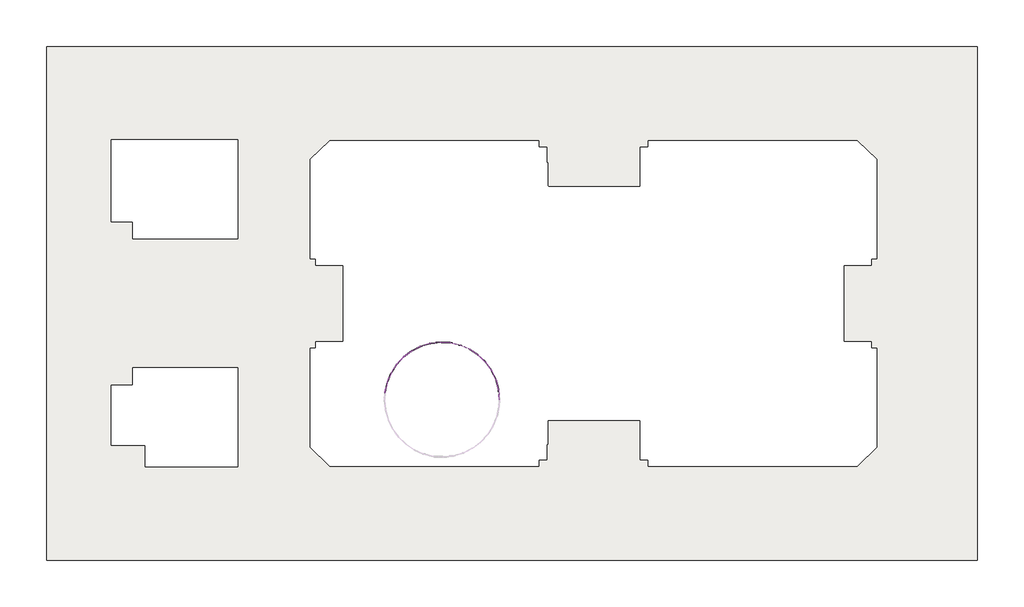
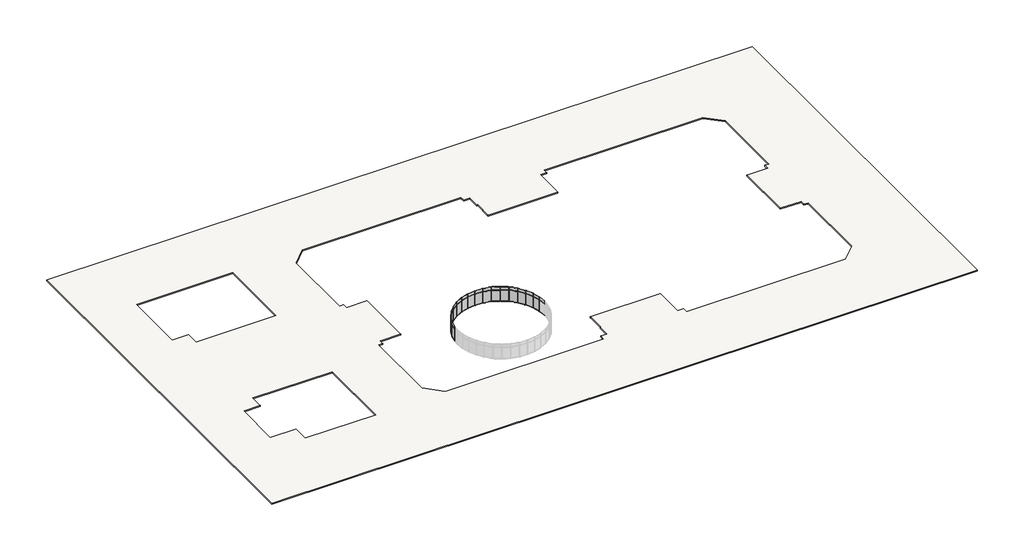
# One storey, part 2 of 2: 68 members, 33 plates, 1 slab.
"""IFC4 building model written with IfcOpenShell, lengths in millimetres."""

from ifc_helpers import new_model, si_unit, point, frame, frame_2d, origin, place, context, project, spatial, polyline, circle_curve, trimmed, segment, composite_curve, outline, extrude, transform, mapped, element, save
from components import member_37831322, member_0f460398, member_8bce7277, member_e3690c8c, plate_f02ba564, plate_84913797, plate_79c12487

model = new_model("IFC4")

# Units and contexts
model_context = context("Model", 3, world=origin())
ifc_project = project(units=[si_unit("LENGTHUNIT", "METRE", prefix="MILLI")], contexts=[model_context])

# Site, building, storey
site = spatial("IfcSite", under=ifc_project)
building = spatial("IfcBuilding", under=site)
storey = spatial("IfcBuildingStorey", under=building, Name="樓層 2", Elevation=4500.0)

# Members
placement = place(None, origin())
member_shape = member_37831322(model_context)
element("IfcMember", 1, ObjectType="圓形豎框 : 25mm 半徑", at=placement, inside=storey, context=model_context, shape_type="MappedRepresentation", body=[
    mapped(member_shape, transform((-1710.0018523, -15272.7850723, 5600.0), x_axis=(-0.17664179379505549, 0.984275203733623, 0.0), y_axis=(0.984275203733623, 0.17664179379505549, 0.0), z_axis=(0.0, 0.0, -1.0))),
])
element("IfcMember", 2, ObjectType="圓形豎框 : 25mm 半徑", at=placement, inside=storey, context=model_context, shape_type="MappedRepresentation", body=[
    mapped(member_shape, transform((-2183.8011895, -13536.2614796, 5600.0), x_axis=(-0.3477282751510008, 0.9375953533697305, 0.0), y_axis=(0.9375953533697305, 0.3477282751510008, 0.0), z_axis=(0.0, 0.0, -1.0))),
])
element("IfcMember", 3, ObjectType="圓形豎框 : 25mm 半徑", at=placement, inside=storey, context=model_context, shape_type="MappedRepresentation", body=[
    mapped(member_shape, transform((-2956.892771, -11910.7371314, 5600.0), x_axis=(-0.5078788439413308, 0.8614285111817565, 0.0), y_axis=(0.8614285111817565, 0.5078788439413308, 0.0), z_axis=(0.0, 0.0, -1.0))),
])
element("IfcMember", 4, ObjectType="圓形豎框 : 25mm 半徑", at=placement, inside=storey, context=model_context, shape_type="MappedRepresentation", body=[
    mapped(member_shape, transform((-4004.9631816, -10447.3341061, 5600.0), x_axis=(-0.6520568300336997, 0.7581700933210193, 0.0), y_axis=(0.7581700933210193, 0.6520568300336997, 0.0), z_axis=(0.0, 0.0, -1.0))),
])
element("IfcMember", 5, ObjectType="圓形豎框 : 25mm 半徑", at=placement, inside=storey, context=model_context, shape_type="MappedRepresentation", body=[
    mapped(member_shape, transform((-5295.0510339, -9192.0758326, 5600.0), x_axis=(-0.7757278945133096, 0.6310675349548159, 0.0), y_axis=(0.6310675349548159, 0.7757278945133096, 0.0), z_axis=(0.0, 0.0, -1.0))),
])
element("IfcMember", 6, ObjectType="圓形豎框 : 25mm 半徑", at=placement, inside=storey, context=model_context, shape_type="MappedRepresentation", body=[
    mapped(member_shape, transform((-6786.5835908, -8184.4396721, 5600.0), x_axis=(-0.8750026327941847, 0.48411815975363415, 0.0), y_axis=(0.48411815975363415, 0.8750026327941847, 0.0), z_axis=(0.0, 0.0, -1.0))),
])
element("IfcMember", 7, ObjectType="圓形豎框 : 25mm 半徑", at=placement, inside=storey, context=model_context, shape_type="MappedRepresentation", body=[
    mapped(member_shape, transform((-8432.6527609, -7456.1153713, 5600.0), x_axis=(-0.9467588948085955, 0.3219434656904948, 0.0), y_axis=(0.3219434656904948, 0.9467588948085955, 0.0), z_axis=(0.0, 0.0, -1.0))),
])
element("IfcMember", 8, ObjectType="圓形豎框 : 25mm 半徑", at=placement, inside=storey, context=model_context, shape_type="MappedRepresentation", body=[
    mapped(member_shape, transform((-10181.4903396, -7030.0084326, 5600.0), x_axis=(-0.9887399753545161, 0.14964378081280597, 0.0), y_axis=(0.14964378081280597, 0.9887399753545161, 0.0), z_axis=(0.0, 0.0, -1.0))),
])
element("IfcMember", 9, ObjectType="圓形豎框 : 25mm 半徑", at=placement, inside=storey, context=model_context, shape_type="MappedRepresentation", body=[
    mapped(member_shape, transform((-11978.0960977, -6919.5197457, 5600.0), x_axis=(-0.9996255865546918, -0.02736213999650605, 0.0), y_axis=(-0.02736213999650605, 0.9996255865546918, 0.0), z_axis=(0.0, 0.0, -1.0))),
])
element("IfcMember", 10, ObjectType="圓形豎框 : 25mm 半徑", at=placement, inside=storey, context=model_context, shape_type="MappedRepresentation", body=[
    mapped(member_shape, transform((-13765.9675162, -7128.1241348, 5600.0), x_axis=(-0.9790733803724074, -0.20350753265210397, 0.0), y_axis=(-0.20350753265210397, 0.9790733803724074, 0.0), z_axis=(0.0, 0.0, -1.0))),
])
element("IfcMember", 11, ObjectType="圓形豎框 : 25mm 半徑", at=placement, inside=storey, context=model_context, shape_type="MappedRepresentation", body=[
    mapped(member_shape, transform((-15488.8767673, -7649.2610767, 5600.0), x_axis=(-0.9277297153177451, -0.373252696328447, 0.0), y_axis=(-0.373252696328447, 0.9277297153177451, 0.0), z_axis=(0.0, 0.0, -1.0))),
])
element("IfcMember", 12, ObjectType="圓形豎框 : 25mm 半徑", at=placement, inside=storey, context=model_context, shape_type="MappedRepresentation", body=[
    mapped(member_shape, transform((-17092.6390573, -8466.5410271, 5600.0), x_axis=(-0.8472093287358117, -0.5312592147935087, 0.0), y_axis=(-0.5312592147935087, 0.8472093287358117, 0.0), z_axis=(0.0, 0.0, -1.0))),
])
element("IfcMember", 13, ObjectType="圓形豎框 : 25mm 半徑", at=placement, inside=storey, context=model_context, shape_type="MappedRepresentation", body=[
    mapped(member_shape, transform((-18526.8167155, -9554.2608645, 5600.0), x_axis=(-0.7400445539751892, -0.6725578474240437, 0.0), y_axis=(-0.6725578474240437, 0.7400445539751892, 0.0), z_axis=(0.0, 0.0, -1.0))),
])
element("IfcMember", 14, ObjectType="圓形豎框 : 25mm 半徑", at=placement, inside=storey, context=model_context, shape_type="MappedRepresentation", body=[
    mapped(member_shape, transform((-19746.305439, -10878.2122432, 5600.0), x_axis=(-0.6096056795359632, -0.7927048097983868, 0.0), y_axis=(-0.7927048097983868, 0.6096056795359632, 0.0), z_axis=(0.0, 0.0, -1.0))),
])
element("IfcMember", 15, ObjectType="圓形豎框 : 25mm 半徑", at=placement, inside=storey, context=model_context, shape_type="MappedRepresentation", body=[
    mapped(member_shape, transform((-20712.7528044, -12396.7574319, 5600.0), x_axis=(-0.4599949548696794, -0.8879215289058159, 0.0), y_axis=(-0.8879215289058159, 0.4599949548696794, 0.0), z_axis=(0.0, 0.0, -1.0))),
])
element("IfcMember", 16, ObjectType="圓形豎框 : 25mm 半徑", at=placement, inside=storey, context=model_context, shape_type="MappedRepresentation", body=[
    mapped(member_shape, transform((-21395.7644357, -14062.1388031, 5600.0), x_axis=(-0.29591757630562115, -0.9552134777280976, 0.0), y_axis=(-0.9552134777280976, 0.29591757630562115, 0.0), z_axis=(0.0, 0.0, -1.0))),
])
element("IfcMember", 17, ObjectType="圓形豎框 : 25mm 半徑", at=placement, inside=storey, context=model_context, shape_type="MappedRepresentation", body=[
    mapped(member_shape, transform((-21773.8598955, -15821.9807912, 5600.0), x_axis=(-0.12253371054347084, -0.992464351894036, 0.0), y_axis=(-0.992464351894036, 0.12253371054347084, 0.0), z_axis=(0.0, 0.0, -1.0))),
])
member_2_shape = member_0f460398(model_context)
element("IfcMember", 18, ObjectType="圓形豎框 : 25mm 半徑", at=placement, inside=storey, context=model_context, shape_type="MappedRepresentation", body=[
    mapped(member_2_shape, transform((-2177.2206431, -13560.3798628, 5600.0), x_axis=(0.0, 0.0, 1.0), y_axis=(0.9647353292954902, 0.2632218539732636, 0.0), z_axis=(-0.2632218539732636, 0.9647353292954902, 0.0))),
])
element("IfcMember", 19, ObjectType="圓形豎框 : 25mm 半徑", at=placement, inside=storey, context=model_context, shape_type="MappedRepresentation", body=[
    mapped(member_2_shape, transform((-2946.1553879, -11933.3138584, 5600.0), x_axis=(0.0, 0.0, 1.0), y_axis=(0.9030690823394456, 0.42949532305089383, 0.0), z_axis=(-0.42949532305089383, 0.9030690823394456, 0.0))),
])
element("IfcMember", 20, ObjectType="圓形豎框 : 25mm 半徑", at=placement, inside=storey, context=model_context, shape_type="MappedRepresentation", body=[
    mapped(member_2_shape, transform((-3990.4066481, -10467.6591481, 5600.0), x_axis=(0.0, 0.0, 1.0), y_axis=(0.8130016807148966, 0.5822613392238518, 0.0), z_axis=(-0.5822613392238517, 0.8130016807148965, 0.0))),
])
element("IfcMember", 21, ObjectType="圓形豎框 : 25mm 半徑", at=placement, inside=storey, context=model_context, shape_type="MappedRepresentation", body=[
    mapped(member_2_shape, transform((-5277.1331471, -9209.5099753, 5600.0), x_axis=(0.0, 0.0, 1.0), y_axis=(0.697365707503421, 0.7167154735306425, 0.0), z_axis=(-0.7167154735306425, 0.697365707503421, 0.0))),
])
element("IfcMember", 22, ObjectType="圓形豎框 : 25mm 半徑", at=placement, inside=storey, context=model_context, shape_type="MappedRepresentation", body=[
    mapped(member_2_shape, transform((-6765.8678608, -8198.4346188, 5600.0), x_axis=(0.0, 0.0, 1.0), y_axis=(0.5597978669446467, 0.8286291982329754, 0.0), z_axis=(-0.8286291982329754, 0.5597978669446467, 0.0))),
])
element("IfcMember", 23, ObjectType="圓形豎框 : 25mm 半徑", at=placement, inside=storey, context=model_context, shape_type="MappedRepresentation", body=[
    mapped(member_2_shape, transform((-8409.7906891, -7466.2309866, 5600.0), x_axis=(0.0, 0.0, 1.0), y_axis=(0.4046246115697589, 0.9144828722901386, 0.0), z_axis=(-0.9144828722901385, 0.4046246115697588, 0.0))),
])
element("IfcMember", 24, ObjectType="圓形豎框 : 25mm 半徑", at=placement, inside=storey, context=model_context, shape_type="MappedRepresentation", body=[
    mapped(member_2_shape, transform((-10157.2009288, -7035.9265845, 5600.0), x_axis=(0.0, 0.0, 1.0), y_axis=(0.2367260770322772, 0.9715764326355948, 0.0), z_axis=(-0.9715764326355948, 0.2367260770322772, 0.0))),
])
element("IfcMember", 25, ObjectType="圓形豎框 : 25mm 半徑", at=placement, inside=storey, context=model_context, shape_type="MappedRepresentation", body=[
    mapped(member_2_shape, transform((-11953.14324, -6921.0543108, 5600.0), x_axis=(0.0, 0.0, 1.0), y_axis=(0.06138260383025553, 0.9981143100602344, 0.0), z_axis=(-0.9981143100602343, 0.061382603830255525, 0.0))),
])
element("IfcMember", 26, ObjectType="圓形豎框 : 25mm 半徑", at=placement, inside=storey, context=model_context, shape_type="MappedRepresentation", body=[
    mapped(member_2_shape, transform((-13741.1359687, -7125.2268516, 5600.0), x_axis=(0.0, 0.0, 1.0), y_axis=(-0.11589132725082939, 0.9932618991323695, 0.0), z_axis=(-0.9932618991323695, -0.11589132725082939, 0.0))),
])
element("IfcMember", 27, ObjectType="圓形豎框 : 25mm 半徑", at=placement, inside=storey, context=model_context, shape_type="MappedRepresentation", body=[
    mapped(member_2_shape, transform((-15464.9474722, -7642.0230636, 5600.0), x_axis=(0.0, 0.0, 1.0), y_axis=(-0.2895205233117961, 0.9571718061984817, 0.0), z_axis=(-0.9571718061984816, -0.28952052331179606, 0.0))),
])
element("IfcMember", 28, ObjectType="圓形豎框 : 25mm 半徑", at=placement, inside=storey, context=model_context, shape_type="MappedRepresentation", body=[
    mapped(member_2_shape, transform((-17070.364581, -8455.1899167, 5600.0), x_axis=(0.0, 0.0, 1.0), y_axis=(-0.4540444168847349, 0.8909790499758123, 0.0), z_axis=(-0.8909790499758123, -0.4540444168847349, 0.0))),
])
element("IfcMember", 29, ObjectType="圓形豎框 : 25mm 半徑", at=placement, inside=storey, context=model_context, shape_type="MappedRepresentation", body=[
    mapped(member_2_shape, transform((-18506.8975814, -9539.1536446, 5600.0), x_axis=(0.0, 0.0, 1.0), y_axis=(-0.6042887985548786, 0.796765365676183, 0.0), z_axis=(-0.7967653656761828, -0.6042887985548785, 0.0))),
])
element("IfcMember", 30, ObjectType="圓形豎框 : 25mm 半徑", at=placement, inside=storey, context=model_context, shape_type="MappedRepresentation", body=[
    mapped(member_2_shape, transform((-19729.3680956, -10859.8240297, 5600.0), x_axis=(0.0, 0.0, 1.0), y_axis=(-0.7355285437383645, 0.677493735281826, 0.0), z_axis=(-0.677493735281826, -0.7355285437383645, 0.0))),
])
element("IfcMember", 31, ObjectType="圓形豎框 : 25mm 半徑", at=placement, inside=storey, context=model_context, shape_type="MappedRepresentation", body=[
    mapped(member_2_shape, transform((-20699.3299243, -12375.6665265, 5600.0), x_axis=(0.0, 0.0, 1.0), y_axis=(-0.8436362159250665, 0.5369152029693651, 0.0), z_axis=(-0.5369152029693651, -0.8436362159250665, 0.0))),
])
element("IfcMember", 32, ObjectType="圓形豎框 : 25mm 半徑", at=placement, inside=storey, context=model_context, shape_type="MappedRepresentation", body=[
    mapped(member_2_shape, transform((-21386.278163, -14039.0085063, 5600.0), x_axis=(0.0, 0.0, 1.0), y_axis=(-0.9252118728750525, 0.37945090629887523, 0.0), z_axis=(-0.37945090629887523, -0.9252118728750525, 0.0))),
])
element("IfcMember", 33, ObjectType="圓形豎框 : 25mm 半徑", at=placement, inside=storey, context=model_context, shape_type="MappedRepresentation", body=[
    mapped(member_2_shape, transform((-21768.6085697, -15797.5385414, 5600.0), x_axis=(0.0, 0.0, 1.0), y_axis=(-0.9776899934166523, 0.2100530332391, 0.0), z_axis=(-0.2100530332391, -0.9776899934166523, 0.0))),
])
element("IfcMember", 34, ObjectType="圓形豎框 : 25mm 半徑", at=placement, inside=storey, context=model_context, shape_type="MappedRepresentation", body=[
    mapped(member_2_shape, transform((-2177.2206431, -13560.3798628, 8400.0), x_axis=(0.0, 0.0, 1.0), y_axis=(0.9647353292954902, 0.2632218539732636, 0.0), z_axis=(-0.2632218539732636, 0.9647353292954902, 0.0))),
])
element("IfcMember", 35, ObjectType="圓形豎框 : 25mm 半徑", at=placement, inside=storey, context=model_context, shape_type="MappedRepresentation", body=[
    mapped(member_2_shape, transform((-2946.1553879, -11933.3138584, 8400.0), x_axis=(0.0, 0.0, 1.0), y_axis=(0.9030690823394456, 0.42949532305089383, 0.0), z_axis=(-0.42949532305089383, 0.9030690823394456, 0.0))),
])
element("IfcMember", 36, ObjectType="圓形豎框 : 25mm 半徑", at=placement, inside=storey, context=model_context, shape_type="MappedRepresentation", body=[
    mapped(member_2_shape, transform((-3990.4066481, -10467.6591481, 8400.0), x_axis=(0.0, 0.0, 1.0), y_axis=(0.8130016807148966, 0.5822613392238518, 0.0), z_axis=(-0.5822613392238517, 0.8130016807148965, 0.0))),
])
element("IfcMember", 37, ObjectType="圓形豎框 : 25mm 半徑", at=placement, inside=storey, context=model_context, shape_type="MappedRepresentation", body=[
    mapped(member_2_shape, transform((-5277.1331471, -9209.5099753, 8400.0), x_axis=(0.0, 0.0, 1.0), y_axis=(0.6973657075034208, 0.7167154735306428, 0.0), z_axis=(-0.7167154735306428, 0.6973657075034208, 0.0))),
])
element("IfcMember", 38, ObjectType="圓形豎框 : 25mm 半徑", at=placement, inside=storey, context=model_context, shape_type="MappedRepresentation", body=[
    mapped(member_2_shape, transform((-6765.8678608, -8198.4346188, 8400.0), x_axis=(0.0, 0.0, 1.0), y_axis=(0.5597978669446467, 0.8286291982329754, 0.0), z_axis=(-0.8286291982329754, 0.5597978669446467, 0.0))),
])
element("IfcMember", 39, ObjectType="圓形豎框 : 25mm 半徑", at=placement, inside=storey, context=model_context, shape_type="MappedRepresentation", body=[
    mapped(member_2_shape, transform((-8409.7906891, -7466.2309866, 8400.0), x_axis=(0.0, 0.0, 1.0), y_axis=(0.40462461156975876, 0.9144828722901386, 0.0), z_axis=(-0.9144828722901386, 0.40462461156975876, 0.0))),
])
element("IfcMember", 40, ObjectType="圓形豎框 : 25mm 半徑", at=placement, inside=storey, context=model_context, shape_type="MappedRepresentation", body=[
    mapped(member_2_shape, transform((-10157.2009288, -7035.9265845, 8400.0), x_axis=(0.0, 0.0, 1.0), y_axis=(0.2367260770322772, 0.9715764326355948, 0.0), z_axis=(-0.9715764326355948, 0.2367260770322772, 0.0))),
])
element("IfcMember", 41, ObjectType="圓形豎框 : 25mm 半徑", at=placement, inside=storey, context=model_context, shape_type="MappedRepresentation", body=[
    mapped(member_2_shape, transform((-11953.14324, -6921.0543108, 8400.0), x_axis=(0.0, 0.0, 1.0), y_axis=(0.06138260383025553, 0.9981143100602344, 0.0), z_axis=(-0.9981143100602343, 0.061382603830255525, 0.0))),
])
element("IfcMember", 42, ObjectType="圓形豎框 : 25mm 半徑", at=placement, inside=storey, context=model_context, shape_type="MappedRepresentation", body=[
    mapped(member_2_shape, transform((-13741.1359687, -7125.2268516, 8400.0), x_axis=(0.0, 0.0, 1.0), y_axis=(-0.11589132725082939, 0.9932618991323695, 0.0), z_axis=(-0.9932618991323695, -0.11589132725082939, 0.0))),
])
element("IfcMember", 43, ObjectType="圓形豎框 : 25mm 半徑", at=placement, inside=storey, context=model_context, shape_type="MappedRepresentation", body=[
    mapped(member_2_shape, transform((-15464.9474722, -7642.0230636, 8400.0), x_axis=(0.0, 0.0, 1.0), y_axis=(-0.2895205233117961, 0.9571718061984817, 0.0), z_axis=(-0.9571718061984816, -0.28952052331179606, 0.0))),
])
element("IfcMember", 44, ObjectType="圓形豎框 : 25mm 半徑", at=placement, inside=storey, context=model_context, shape_type="MappedRepresentation", body=[
    mapped(member_2_shape, transform((-17070.364581, -8455.1899167, 8400.0), x_axis=(0.0, 0.0, 1.0), y_axis=(-0.45404441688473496, 0.8909790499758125, 0.0), z_axis=(-0.8909790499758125, -0.45404441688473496, 0.0))),
])
element("IfcMember", 45, ObjectType="圓形豎框 : 25mm 半徑", at=placement, inside=storey, context=model_context, shape_type="MappedRepresentation", body=[
    mapped(member_2_shape, transform((-18506.8975814, -9539.1536446, 8400.0), x_axis=(0.0, 0.0, 1.0), y_axis=(-0.6042887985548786, 0.796765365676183, 0.0), z_axis=(-0.7967653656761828, -0.6042887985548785, 0.0))),
])
element("IfcMember", 46, ObjectType="圓形豎框 : 25mm 半徑", at=placement, inside=storey, context=model_context, shape_type="MappedRepresentation", body=[
    mapped(member_2_shape, transform((-19729.3680956, -10859.8240297, 8400.0), x_axis=(0.0, 0.0, 1.0), y_axis=(-0.7355285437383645, 0.677493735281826, 0.0), z_axis=(-0.677493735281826, -0.7355285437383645, 0.0))),
])
element("IfcMember", 47, ObjectType="圓形豎框 : 25mm 半徑", at=placement, inside=storey, context=model_context, shape_type="MappedRepresentation", body=[
    mapped(member_2_shape, transform((-20699.3299243, -12375.6665265, 8400.0), x_axis=(0.0, 0.0, 1.0), y_axis=(-0.8436362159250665, 0.5369152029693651, 0.0), z_axis=(-0.5369152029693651, -0.8436362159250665, 0.0))),
])
element("IfcMember", 48, ObjectType="圓形豎框 : 25mm 半徑", at=placement, inside=storey, context=model_context, shape_type="MappedRepresentation", body=[
    mapped(member_2_shape, transform((-21386.278163, -14039.0085063, 8400.0), x_axis=(0.0, 0.0, 1.0), y_axis=(-0.9252118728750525, 0.37945090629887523, 0.0), z_axis=(-0.37945090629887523, -0.9252118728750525, 0.0))),
])
element("IfcMember", 49, ObjectType="圓形豎框 : 25mm 半徑", at=placement, inside=storey, context=model_context, shape_type="MappedRepresentation", body=[
    mapped(member_2_shape, transform((-21768.6085697, -15797.5385414, 8400.0), x_axis=(0.0, 0.0, 1.0), y_axis=(-0.9776899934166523, 0.2100530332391, 0.0), z_axis=(-0.2100530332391, -0.9776899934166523, 0.0))),
])
member_3_shape = member_8bce7277(model_context)
element("IfcMember", 50, ObjectType="圓形豎框 : 25mm 半徑", at=placement, inside=storey, context=model_context, shape_type="MappedRepresentation", body=[
    mapped(member_3_shape, transform((-1710.0018523, -15272.7850723, 8400.0), x_axis=(-0.17664179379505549, 0.984275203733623, 0.0), y_axis=(0.984275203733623, 0.17664179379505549, 0.0), z_axis=(0.0, 0.0, -1.0))),
])
element("IfcMember", 51, ObjectType="圓形豎框 : 25mm 半徑", at=placement, inside=storey, context=model_context, shape_type="MappedRepresentation", body=[
    mapped(member_3_shape, transform((-2183.8011895, -13536.2614796, 8400.0), x_axis=(-0.3477282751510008, 0.9375953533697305, 0.0), y_axis=(0.9375953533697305, 0.3477282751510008, 0.0), z_axis=(0.0, 0.0, -1.0))),
])
element("IfcMember", 52, ObjectType="圓形豎框 : 25mm 半徑", at=placement, inside=storey, context=model_context, shape_type="MappedRepresentation", body=[
    mapped(member_3_shape, transform((-2956.892771, -11910.7371314, 8400.0), x_axis=(-0.5078788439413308, 0.8614285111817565, 0.0), y_axis=(0.8614285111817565, 0.5078788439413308, 0.0), z_axis=(0.0, 0.0, -1.0))),
])
element("IfcMember", 53, ObjectType="圓形豎框 : 25mm 半徑", at=placement, inside=storey, context=model_context, shape_type="MappedRepresentation", body=[
    mapped(member_3_shape, transform((-4004.9631816, -10447.3341061, 8400.0), x_axis=(-0.6520568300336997, 0.7581700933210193, 0.0), y_axis=(0.7581700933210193, 0.6520568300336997, 0.0), z_axis=(0.0, 0.0, -1.0))),
])
element("IfcMember", 54, ObjectType="圓形豎框 : 25mm 半徑", at=placement, inside=storey, context=model_context, shape_type="MappedRepresentation", body=[
    mapped(member_3_shape, transform((-5295.0510339, -9192.0758326, 8400.0), x_axis=(-0.7757278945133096, 0.6310675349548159, 0.0), y_axis=(0.6310675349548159, 0.7757278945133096, 0.0), z_axis=(0.0, 0.0, -1.0))),
])
element("IfcMember", 55, ObjectType="圓形豎框 : 25mm 半徑", at=placement, inside=storey, context=model_context, shape_type="MappedRepresentation", body=[
    mapped(member_3_shape, transform((-6786.5835908, -8184.4396721, 8400.0), x_axis=(-0.8750026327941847, 0.48411815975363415, 0.0), y_axis=(0.48411815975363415, 0.8750026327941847, 0.0), z_axis=(0.0, 0.0, -1.0))),
])
element("IfcMember", 56, ObjectType="圓形豎框 : 25mm 半徑", at=placement, inside=storey, context=model_context, shape_type="MappedRepresentation", body=[
    mapped(member_3_shape, transform((-8432.6527609, -7456.1153713, 8400.0), x_axis=(-0.9467588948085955, 0.3219434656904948, 0.0), y_axis=(0.3219434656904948, 0.9467588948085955, 0.0), z_axis=(0.0, 0.0, -1.0))),
])
element("IfcMember", 57, ObjectType="圓形豎框 : 25mm 半徑", at=placement, inside=storey, context=model_context, shape_type="MappedRepresentation", body=[
    mapped(member_3_shape, transform((-10181.4903396, -7030.0084326, 8400.0), x_axis=(-0.9887399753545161, 0.14964378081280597, 0.0), y_axis=(0.14964378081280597, 0.9887399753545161, 0.0), z_axis=(0.0, 0.0, -1.0))),
])
element("IfcMember", 58, ObjectType="圓形豎框 : 25mm 半徑", at=placement, inside=storey, context=model_context, shape_type="MappedRepresentation", body=[
    mapped(member_3_shape, transform((-11978.0960977, -6919.5197457, 8400.0), x_axis=(-0.9996255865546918, -0.02736213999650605, 0.0), y_axis=(-0.02736213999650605, 0.9996255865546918, 0.0), z_axis=(0.0, 0.0, -1.0))),
])
element("IfcMember", 59, ObjectType="圓形豎框 : 25mm 半徑", at=placement, inside=storey, context=model_context, shape_type="MappedRepresentation", body=[
    mapped(member_3_shape, transform((-13765.9675162, -7128.1241348, 8400.0), x_axis=(-0.9790733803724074, -0.20350753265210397, 0.0), y_axis=(-0.20350753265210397, 0.9790733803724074, 0.0), z_axis=(0.0, 0.0, -1.0))),
])
element("IfcMember", 60, ObjectType="圓形豎框 : 25mm 半徑", at=placement, inside=storey, context=model_context, shape_type="MappedRepresentation", body=[
    mapped(member_3_shape, transform((-15488.8767673, -7649.2610767, 8400.0), x_axis=(-0.9277297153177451, -0.373252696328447, 0.0), y_axis=(-0.373252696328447, 0.9277297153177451, 0.0), z_axis=(0.0, 0.0, -1.0))),
])
element("IfcMember", 61, ObjectType="圓形豎框 : 25mm 半徑", at=placement, inside=storey, context=model_context, shape_type="MappedRepresentation", body=[
    mapped(member_3_shape, transform((-17092.6390573, -8466.5410271, 8400.0), x_axis=(-0.8472093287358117, -0.5312592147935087, 0.0), y_axis=(-0.5312592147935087, 0.8472093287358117, 0.0), z_axis=(0.0, 0.0, -1.0))),
])
element("IfcMember", 62, ObjectType="圓形豎框 : 25mm 半徑", at=placement, inside=storey, context=model_context, shape_type="MappedRepresentation", body=[
    mapped(member_3_shape, transform((-18526.8167155, -9554.2608645, 8400.0), x_axis=(-0.7400445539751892, -0.6725578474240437, 0.0), y_axis=(-0.6725578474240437, 0.7400445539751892, 0.0), z_axis=(0.0, 0.0, -1.0))),
])
element("IfcMember", 63, ObjectType="圓形豎框 : 25mm 半徑", at=placement, inside=storey, context=model_context, shape_type="MappedRepresentation", body=[
    mapped(member_3_shape, transform((-19746.305439, -10878.2122432, 8400.0), x_axis=(-0.6096056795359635, -0.7927048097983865, 0.0), y_axis=(-0.7927048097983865, 0.6096056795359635, 0.0), z_axis=(0.0, 0.0, -1.0))),
])
element("IfcMember", 64, ObjectType="圓形豎框 : 25mm 半徑", at=placement, inside=storey, context=model_context, shape_type="MappedRepresentation", body=[
    mapped(member_3_shape, transform((-20712.7528044, -12396.7574319, 8400.0), x_axis=(-0.4599949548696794, -0.8879215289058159, 0.0), y_axis=(-0.8879215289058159, 0.4599949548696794, 0.0), z_axis=(0.0, 0.0, -1.0))),
])
element("IfcMember", 65, ObjectType="圓形豎框 : 25mm 半徑", at=placement, inside=storey, context=model_context, shape_type="MappedRepresentation", body=[
    mapped(member_3_shape, transform((-21395.7644357, -14062.1388031, 8400.0), x_axis=(-0.295917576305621, -0.9552134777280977, 0.0), y_axis=(-0.9552134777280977, 0.295917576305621, 0.0), z_axis=(0.0, 0.0, -1.0))),
])
element("IfcMember", 66, ObjectType="圓形豎框 : 25mm 半徑", at=placement, inside=storey, context=model_context, shape_type="MappedRepresentation", body=[
    mapped(member_3_shape, transform((-21773.8598955, -15821.9807912, 8400.0), x_axis=(-0.12253371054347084, -0.992464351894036, 0.0), y_axis=(-0.992464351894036, 0.12253371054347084, 0.0), z_axis=(0.0, 0.0, -1.0))),
])
member_4_shape = member_e3690c8c(model_context)
element("IfcMember", 67, ObjectType="圓形豎框 : 25mm 半徑", at=placement, inside=storey, context=model_context, shape_type="MappedRepresentation", body=[
    mapped(member_4_shape, transform((-1707.7850982, -15297.6865984, 5600.0), x_axis=(0.0, 0.0, 1.0), y_axis=(0.99606104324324, 0.08867016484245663, 0.0), z_axis=(-0.08867016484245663, 0.99606104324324, 0.0))),
])
element("IfcMember", 68, ObjectType="圓形豎框 : 25mm 半徑", at=placement, inside=storey, context=model_context, shape_type="MappedRepresentation", body=[
    mapped(member_4_shape, transform((-1707.7850982, -15297.6865984, 8400.0), x_axis=(0.0, 0.0, 1.0), y_axis=(0.99606104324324, 0.08867016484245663, 0.0), z_axis=(-0.08867016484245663, 0.99606104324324, 0.0))),
])

# Plates
plate_shape = plate_f02ba564(model_context)
element("IfcPlate", 69, ObjectType="系統嵌板 : 玻璃 1.0cm", at=placement, inside=storey, context=model_context, shape_type="MappedRepresentation", body=[
    mapped(plate_shape, transform((-1946.9015209, -14404.523276, 5625.0), x_axis=(-0.26322185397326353, 0.9647353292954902, 0.0), y_axis=(-0.9647353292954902, -0.26322185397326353, 0.0), z_axis=(0.0, 0.0, 1.0))),
])
element("IfcPlate", 70, ObjectType="系統嵌板 : 玻璃 1.0cm", at=placement, inside=storey, context=model_context, shape_type="MappedRepresentation", body=[
    mapped(plate_shape, transform((-2570.3469802, -12723.4993055, 5625.0), x_axis=(-0.42949532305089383, 0.9030690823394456, 0.0), y_axis=(-0.9030690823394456, -0.42949532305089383, 0.0), z_axis=(0.0, 0.0, 1.0))),
])
element("IfcPlate", 71, ObjectType="系統嵌板 : 玻璃 1.0cm", at=placement, inside=storey, context=model_context, shape_type="MappedRepresentation", body=[
    mapped(plate_shape, transform((-3480.9279763, -11179.0356187, 5625.0), x_axis=(-0.5822613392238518, 0.8130016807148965, 0.0), y_axis=(-0.8130016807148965, -0.5822613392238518, 0.0), z_axis=(0.0, 0.0, 1.0))),
])
element("IfcPlate", 72, ObjectType="系統嵌板 : 玻璃 1.0cm", at=placement, inside=storey, context=model_context, shape_type="MappedRepresentation", body=[
    mapped(plate_shape, transform((-4650.0071078, -9819.7049693, 5625.0), x_axis=(-0.7167154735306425, 0.6973657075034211, 0.0), y_axis=(-0.6973657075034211, -0.7167154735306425, 0.0), z_axis=(0.0, 0.0, 1.0))),
])
element("IfcPlate", 73, ObjectType="系統嵌板 : 玻璃 1.0cm", at=placement, inside=storey, context=model_context, shape_type="MappedRepresentation", body=[
    mapped(plate_shape, transform((-6040.8173123, -8688.2577523, 5625.0), x_axis=(-0.8286291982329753, 0.559797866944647, 0.0), y_axis=(-0.559797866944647, -0.8286291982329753, 0.0), z_axis=(0.0, 0.0, 1.0))),
])
element("IfcPlate", 74, ObjectType="系統嵌板 : 玻璃 1.0cm", at=placement, inside=storey, context=model_context, shape_type="MappedRepresentation", body=[
    mapped(plate_shape, transform((-7609.6181758, -7820.2775217, 5625.0), x_axis=(-0.9144828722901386, 0.4046246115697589, 0.0), y_axis=(-0.4046246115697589, -0.9144828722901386, 0.0), z_axis=(0.0, 0.0, 1.0))),
])
element("IfcPlate", 75, ObjectType="系統嵌板 : 玻璃 1.0cm", at=placement, inside=storey, context=model_context, shape_type="MappedRepresentation", body=[
    mapped(plate_shape, transform((-9307.0715503, -7243.0619019, 5625.0), x_axis=(-0.9715764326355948, 0.23672607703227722, 0.0), y_axis=(-0.23672607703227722, -0.9715764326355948, 0.0), z_axis=(0.0, 0.0, 1.0))),
])
element("IfcPlate", 76, ObjectType="系統嵌板 : 玻璃 1.0cm", at=placement, inside=storey, context=model_context, shape_type="MappedRepresentation", body=[
    mapped(plate_shape, transform((-11079.7932187, -6974.7640892, 5625.0), x_axis=(-0.9981143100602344, 0.061382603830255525, 0.0), y_axis=(-0.061382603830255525, -0.9981143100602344, 0.0), z_axis=(0.0, 0.0, 1.0))),
])
element("IfcPlate", 77, ObjectType="系統嵌板 : 玻璃 1.0cm", at=placement, inside=storey, context=model_context, shape_type="MappedRepresentation", body=[
    mapped(plate_shape, transform((-12872.031807, -7023.8219402, 5625.0), x_axis=(-0.9932618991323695, -0.11589132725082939, 0.0), y_axis=(0.11589132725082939, -0.9932618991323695, 0.0), z_axis=(0.0, 0.0, 1.0))),
])
element("IfcPlate", 78, ObjectType="系統嵌板 : 玻璃 1.0cm", at=placement, inside=storey, context=model_context, shape_type="MappedRepresentation", body=[
    mapped(plate_shape, transform((-14627.4221417, -7388.6926057, 5625.0), x_axis=(-0.9571718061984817, -0.2895205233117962, 0.0), y_axis=(0.2895205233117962, -0.9571718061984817, 0.0), z_axis=(0.0, 0.0, 1.0))),
])
element("IfcPlate", 79, ObjectType="系統嵌板 : 玻璃 1.0cm", at=placement, inside=storey, context=model_context, shape_type="MappedRepresentation", body=[
    mapped(plate_shape, transform((-16290.7579123, -8057.9010519, 5625.0), x_axis=(-0.8909790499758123, -0.45404441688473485, 0.0), y_axis=(0.45404441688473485, -0.8909790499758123, 0.0), z_axis=(0.0, 0.0, 1.0))),
])
element("IfcPlate", 80, ObjectType="系統嵌板 : 玻璃 1.0cm", at=placement, inside=storey, context=model_context, shape_type="MappedRepresentation", body=[
    mapped(plate_shape, transform((-17809.7278864, -9010.4009458, 5625.0), x_axis=(-0.7967653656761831, -0.6042887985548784, 0.0), y_axis=(0.6042887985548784, -0.7967653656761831, 0.0), z_axis=(0.0, 0.0, 1.0))),
])
element("IfcPlate", 81, ObjectType="系統嵌板 : 玻璃 1.0cm", at=placement, inside=storey, context=model_context, shape_type="MappedRepresentation", body=[
    mapped(plate_shape, transform((-19136.5610773, -10216.2365539, 5625.0), x_axis=(-0.6774937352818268, -0.7355285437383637, 0.0), y_axis=(0.7355285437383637, -0.6774937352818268, 0.0), z_axis=(0.0, 0.0, 1.0))),
])
element("IfcPlate", 82, ObjectType="系統嵌板 : 玻璃 1.0cm", at=placement, inside=storey, context=model_context, shape_type="MappedRepresentation", body=[
    mapped(plate_shape, transform((-20229.5291217, -11637.4848376, 5625.0), x_axis=(-0.536915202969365, -0.8436362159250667, 0.0), y_axis=(0.8436362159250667, -0.536915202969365, 0.0), z_axis=(0.0, 0.0, 1.0))),
])
element("IfcPlate", 83, ObjectType="系統嵌板 : 玻璃 1.0cm", at=placement, inside=storey, context=model_context, shape_type="MappedRepresentation", body=[
    mapped(plate_shape, transform((-21054.25862, -13229.4481175, 5625.0), x_axis=(-0.3794509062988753, -0.9252118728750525, 0.0), y_axis=(0.9252118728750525, -0.3794509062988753, 0.0), z_axis=(0.0, 0.0, 1.0))),
])
element("IfcPlate", 84, ObjectType="系統嵌板 : 玻璃 1.0cm", at=placement, inside=storey, context=model_context, shape_type="MappedRepresentation", body=[
    mapped(plate_shape, transform((-21584.8121656, -14942.0597972, 5625.0), x_axis=(-0.2100530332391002, -0.9776899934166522, 0.0), y_axis=(0.9776899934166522, -0.2100530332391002, 0.0), z_axis=(0.0, 0.0, 1.0))),
])
plate_2_shape = plate_84913797(model_context)
element("IfcPlate", 85, ObjectType="系統嵌板 : 玻璃 1.0cm", at=placement, inside=storey, context=model_context, shape_type="MappedRepresentation", body=[
    mapped(plate_2_shape, transform((-1629.0903269, -16181.6907743, 8425.0), x_axis=(-0.08867016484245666, 0.99606104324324, 0.0), y_axis=(-0.99606104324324, -0.08867016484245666, 0.0), z_axis=(0.0, 0.0, 1.0))),
])
plate_3_shape = plate_79c12487(model_context)
element("IfcPlate", 86, ObjectType="系統嵌板 : 玻璃 1.0cm", at=placement, inside=storey, context=model_context, shape_type="MappedRepresentation", body=[
    mapped(plate_3_shape, transform((-1946.9015209, -14404.523276, 8425.0), x_axis=(-0.26322185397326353, 0.9647353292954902, 0.0), y_axis=(-0.9647353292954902, -0.26322185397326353, 0.0), z_axis=(0.0, 0.0, 1.0))),
])
element("IfcPlate", 87, ObjectType="系統嵌板 : 玻璃 1.0cm", at=placement, inside=storey, context=model_context, shape_type="MappedRepresentation", body=[
    mapped(plate_3_shape, transform((-2570.3469802, -12723.4993055, 8425.0), x_axis=(-0.42949532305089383, 0.9030690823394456, 0.0), y_axis=(-0.9030690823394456, -0.42949532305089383, 0.0), z_axis=(0.0, 0.0, 1.0))),
])
element("IfcPlate", 88, ObjectType="系統嵌板 : 玻璃 1.0cm", at=placement, inside=storey, context=model_context, shape_type="MappedRepresentation", body=[
    mapped(plate_3_shape, transform((-3480.9279763, -11179.0356187, 8425.0), x_axis=(-0.5822613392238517, 0.8130016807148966, 0.0), y_axis=(-0.8130016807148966, -0.5822613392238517, 0.0), z_axis=(0.0, 0.0, 1.0))),
])
element("IfcPlate", 89, ObjectType="系統嵌板 : 玻璃 1.0cm", at=placement, inside=storey, context=model_context, shape_type="MappedRepresentation", body=[
    mapped(plate_3_shape, transform((-4650.0071078, -9819.7049693, 8425.0), x_axis=(-0.7167154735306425, 0.6973657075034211, 0.0), y_axis=(-0.6973657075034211, -0.7167154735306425, 0.0), z_axis=(0.0, 0.0, 1.0))),
])
element("IfcPlate", 90, ObjectType="系統嵌板 : 玻璃 1.0cm", at=placement, inside=storey, context=model_context, shape_type="MappedRepresentation", body=[
    mapped(plate_3_shape, transform((-6040.8173123, -8688.2577523, 8425.0), x_axis=(-0.8286291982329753, 0.559797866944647, 0.0), y_axis=(-0.559797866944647, -0.8286291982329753, 0.0), z_axis=(0.0, 0.0, 1.0))),
])
element("IfcPlate", 91, ObjectType="系統嵌板 : 玻璃 1.0cm", at=placement, inside=storey, context=model_context, shape_type="MappedRepresentation", body=[
    mapped(plate_3_shape, transform((-7609.6181758, -7820.2775217, 8425.0), x_axis=(-0.9144828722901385, 0.4046246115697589, 0.0), y_axis=(-0.4046246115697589, -0.9144828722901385, 0.0), z_axis=(0.0, 0.0, 1.0))),
])
element("IfcPlate", 92, ObjectType="系統嵌板 : 玻璃 1.0cm", at=placement, inside=storey, context=model_context, shape_type="MappedRepresentation", body=[
    mapped(plate_3_shape, transform((-9307.0715503, -7243.0619019, 8425.0), x_axis=(-0.9715764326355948, 0.2367260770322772, 0.0), y_axis=(-0.2367260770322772, -0.9715764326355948, 0.0), z_axis=(0.0, 0.0, 1.0))),
])
element("IfcPlate", 93, ObjectType="系統嵌板 : 玻璃 1.0cm", at=placement, inside=storey, context=model_context, shape_type="MappedRepresentation", body=[
    mapped(plate_3_shape, transform((-11079.7932187, -6974.7640892, 8425.0), x_axis=(-0.9981143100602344, 0.061382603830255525, 0.0), y_axis=(-0.061382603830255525, -0.9981143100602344, 0.0), z_axis=(0.0, 0.0, 1.0))),
])
element("IfcPlate", 94, ObjectType="系統嵌板 : 玻璃 1.0cm", at=placement, inside=storey, context=model_context, shape_type="MappedRepresentation", body=[
    mapped(plate_3_shape, transform((-12872.031807, -7023.8219402, 8425.0), x_axis=(-0.9932618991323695, -0.11589132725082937, 0.0), y_axis=(0.11589132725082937, -0.9932618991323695, 0.0), z_axis=(0.0, 0.0, 1.0))),
])
element("IfcPlate", 95, ObjectType="系統嵌板 : 玻璃 1.0cm", at=placement, inside=storey, context=model_context, shape_type="MappedRepresentation", body=[
    mapped(plate_3_shape, transform((-14627.4221417, -7388.6926057, 8425.0), x_axis=(-0.9571718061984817, -0.2895205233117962, 0.0), y_axis=(0.2895205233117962, -0.9571718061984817, 0.0), z_axis=(0.0, 0.0, 1.0))),
])
element("IfcPlate", 96, ObjectType="系統嵌板 : 玻璃 1.0cm", at=placement, inside=storey, context=model_context, shape_type="MappedRepresentation", body=[
    mapped(plate_3_shape, transform((-16290.7579123, -8057.9010519, 8425.0), x_axis=(-0.8909790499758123, -0.4540444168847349, 0.0), y_axis=(0.4540444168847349, -0.8909790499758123, 0.0), z_axis=(0.0, 0.0, 1.0))),
])
element("IfcPlate", 97, ObjectType="系統嵌板 : 玻璃 1.0cm", at=placement, inside=storey, context=model_context, shape_type="MappedRepresentation", body=[
    mapped(plate_3_shape, transform((-17809.7278864, -9010.4009458, 8425.0), x_axis=(-0.7967653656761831, -0.6042887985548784, 0.0), y_axis=(0.6042887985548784, -0.7967653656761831, 0.0), z_axis=(0.0, 0.0, 1.0))),
])
element("IfcPlate", 98, ObjectType="系統嵌板 : 玻璃 1.0cm", at=placement, inside=storey, context=model_context, shape_type="MappedRepresentation", body=[
    mapped(plate_3_shape, transform((-19136.5610773, -10216.2365539, 8425.0), x_axis=(-0.6774937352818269, -0.7355285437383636, 0.0), y_axis=(0.7355285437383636, -0.6774937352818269, 0.0), z_axis=(0.0, 0.0, 1.0))),
])
element("IfcPlate", 99, ObjectType="系統嵌板 : 玻璃 1.0cm", at=placement, inside=storey, context=model_context, shape_type="MappedRepresentation", body=[
    mapped(plate_3_shape, transform((-20229.5291217, -11637.4848376, 8425.0), x_axis=(-0.5369152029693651, -0.8436362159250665, 0.0), y_axis=(0.8436362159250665, -0.5369152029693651, 0.0), z_axis=(0.0, 0.0, 1.0))),
])
element("IfcPlate", 100, ObjectType="系統嵌板 : 玻璃 1.0cm", at=placement, inside=storey, context=model_context, shape_type="MappedRepresentation", body=[
    mapped(plate_3_shape, transform((-21054.25862, -13229.4481175, 8425.0), x_axis=(-0.37945090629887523, -0.9252118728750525, 0.0), y_axis=(0.9252118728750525, -0.37945090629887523, 0.0), z_axis=(0.0, 0.0, 1.0))),
])
element("IfcPlate", 101, ObjectType="系統嵌板 : 玻璃 1.0cm", at=placement, inside=storey, context=model_context, shape_type="MappedRepresentation", body=[
    mapped(plate_3_shape, transform((-21584.8121656, -14942.0597972, 8425.0), x_axis=(-0.21005303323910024, -0.9776899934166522, 0.0), y_axis=(0.9776899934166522, -0.21005303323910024, 0.0), z_axis=(0.0, 0.0, 1.0))),
])

# Slab
element("IfcSlab", 102, ObjectType="基板 - 25cm", at=placement, inside=storey, context=model_context, shape_type="SweptSolid", body=[
    extrude(outline(polyline([(-81591.2230426, 45327.9067124), (82913.7769574, 45327.9067124), (82913.7769574, -45467.0932876), (-81591.2230426, -45467.0932876), (-81591.2230426, 45327.9067124)]), holes=[composite_curve([segment(polyline([(61705.1068576, -28837.0932876), (65103.7769574, -25500.0305008), (65103.7769574, -7967.0932876), (64123.7769574, -7967.0932876), (64123.7769574, -6827.0932876), (59298.7769574, -6827.0932876), (59298.7769574, 6712.9067124), (64123.7769574, 6712.9067124), (64123.7769574, 7852.9067124), (65103.7769574, 7852.9067124), (65103.7769574, 25385.8439255), (61705.1068576, 28722.9067124), (24773.7769574, 28722.9067124), (24773.7769574, 27570.4067124), (23333.7769574, 27570.4067124), (23333.7769574, 20677.9067124)]), True, "CONTINUOUS"), segment(trimmed(circle_curve(frame_2d((23243.7769574, 20677.9067124)), 90.0), [point((23333.7769574, 20677.9067124))], [point((23243.7769574, 20587.9067124))], False, "CARTESIAN"), True, "CONTINUOUS"), segment(polyline([(23243.7769574, 20587.9067124), (7128.4112757, 20587.9067124)]), True, "CONTINUOUS"), segment(trimmed(circle_curve(frame_2d((7103.7769574, 20677.9067124)), 93.3105012), [point((7128.4112757, 20587.9067124))], [point((7013.7769574, 20653.2723941))], False, "CARTESIAN"), True, "CONTINUOUS"), segment(polyline([(7013.7769574, 20653.2723941), (7013.7769574, 24817.9067124), (6813.7769574, 24817.9067124), (6813.7769574, 27570.4067124), (5373.7769574, 27570.4067124), (5373.7769574, 28722.9067124), (-31557.5529427, 28722.9067124), (-34956.2230426, 25385.8439255), (-34956.2230426, 7852.9067124), (-33976.2230426, 7852.9067124), (-33976.2230426, 6712.9067124), (-29151.2230426, 6712.9067124), (-29151.2230426, -6827.0932876), (-33976.2230426, -6827.0932876), (-33976.2230426, -7967.0932876), (-34956.2230426, -7967.0932876), (-34956.2230426, -25500.0305008), (-31557.5529427, -28837.0932876), (5373.7769574, -28837.0932876), (5373.7769574, -27684.5932876), (6813.7769574, -27684.5932876), (6813.7769574, -24932.0932876), (7013.7769574, -24932.0932876), (7013.7769574, -20752.0932876)]), True, "CONTINUOUS"), segment(trimmed(circle_curve(frame_2d((7063.7769574, -20752.0932876)), 50.0), [point((7013.7769574, -20752.0932876))], [point((7063.7769574, -20702.0932876))], False, "CARTESIAN"), True, "CONTINUOUS"), segment(polyline([(7063.7769574, -20702.0932876), (23283.7769574, -20702.0932876)]), True, "CONTINUOUS"), segment(trimmed(circle_curve(frame_2d((23283.7769574, -20752.0932876)), 50.0), [point((23283.7769574, -20702.0932876))], [point((23333.7769574, -20752.0932876))], False, "CARTESIAN"), True, "CONTINUOUS"), segment(polyline([(23333.7769574, -20752.0932876), (23333.7769574, -27684.5932876), (24773.7769574, -27684.5932876), (24773.7769574, -28837.0932876), (61705.1068576, -28837.0932876)]), True, "CONTINUOUS")], self_intersect=False), polyline([(-70116.2230426, 28827.9067124), (-70116.2230426, 14379.9067124), (-66356.2230426, 14379.9067124), (-66356.2230426, 11337.3962872), (-47776.2230426, 11337.3962872), (-47776.2230426, 28827.9067124), (-70116.2230426, 28827.9067124)]), polyline([(-66356.2230426, -11451.5828624), (-66356.2230426, -14494.0932876), (-70116.2230426, -14494.0932876), (-70116.2230426, -25155.0932876), (-64146.109987, -25155.0932876), (-64146.109987, -28942.0932876), (-47776.2230426, -28942.0932876), (-47776.2230426, -11451.5828624), (-66356.2230426, -11451.5828624)])]), frame((0.0, 0.0, 4250.0), z_axis=(0.0, 0.0, 1.0), x_axis=(1.0, 0.0, 0.0)), (0.0, 0.0, 1.0), 250.0),
])

save(model, "model.ifc")
